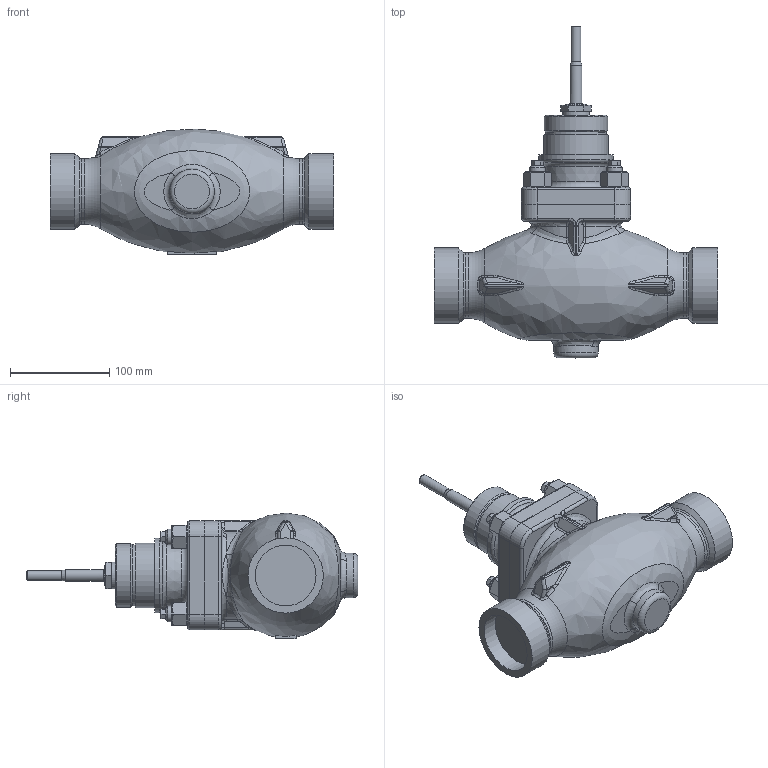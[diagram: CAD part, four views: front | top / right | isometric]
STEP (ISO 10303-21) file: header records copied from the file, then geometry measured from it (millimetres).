
FILE_DESCRIPTION(/* description */ (''),/* implementation_level */ '2;1');
FILE_NAME(/* name */ 'CV3xx_NPS_1_2_privarovaci_SW_CL300.stp',/* time_stamp */ '2017-05-05T07:53:57+02:00',/* author */ (''),/* organization */ (''),/* preprocessor_version */ 'ST-DEVELOPER v15',/* originating_system */ 'SIEMENS PLM Software NX 8.5',/* authorisation */ '');
FILE_SCHEMA (('AP203_CONFIGURATION_CONTROLLED_3D_DESIGN_OF_MECHANICAL_PARTS_AND_ASSEMBLIES_MIM_LF { 1 0 10303 403 2 1 2}'));
Length unit declared in the file: millimetre
Products named in the file (1): adam123C24F3gp3o
Bounding box: 286 x 335 x 126.94 mm (x, y, z)
Volume: 2859098.6 mm3; surface area: 181336.8 mm2
Topology: 1 solids, 1 shells, 430 faces, 985 edges, 576 vertices
Faces by surface type: plane 125, cone 100, cylinder 98, bspline 78, torus 29
Full cylindrical faces by diameter (mm): 10 x1, 12 x1, 12.5 x4, 14 x1, 16 x12, 18 x5, 21 x1, 24 x8, 27 x1, 45 x1, 61.4 x2, 61.6 x1, 64 x1, 65 x1, 66 x2, 75 x1, 76 x2, 86 x1
Entity records: 13101 total; most frequent: CARTESIAN_POINT 4637, ORIENTED_EDGE 1688, DIRECTION 1642, EDGE_CURVE 844, AXIS2_PLACEMENT_3D 720, EDGE_LOOP 556, VERTEX_POINT 534, ADVANCED_FACE 430
